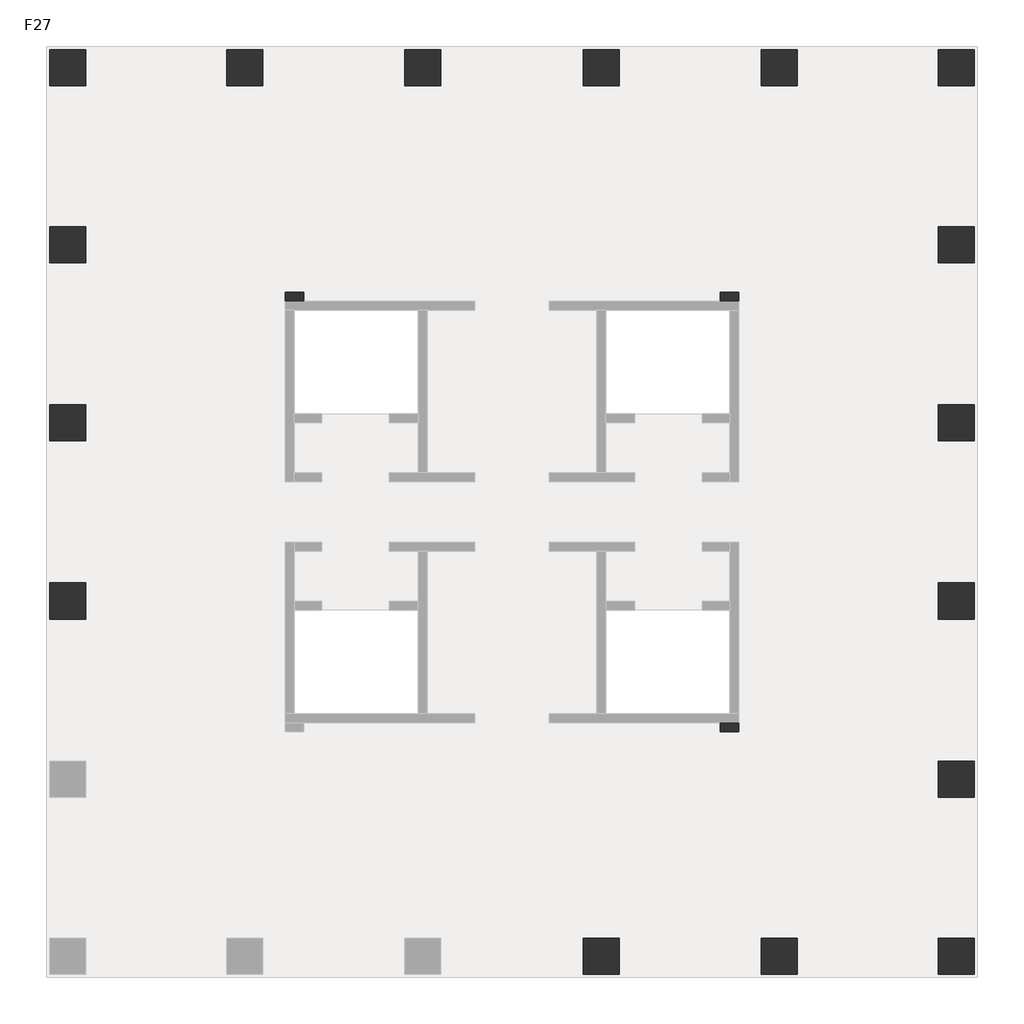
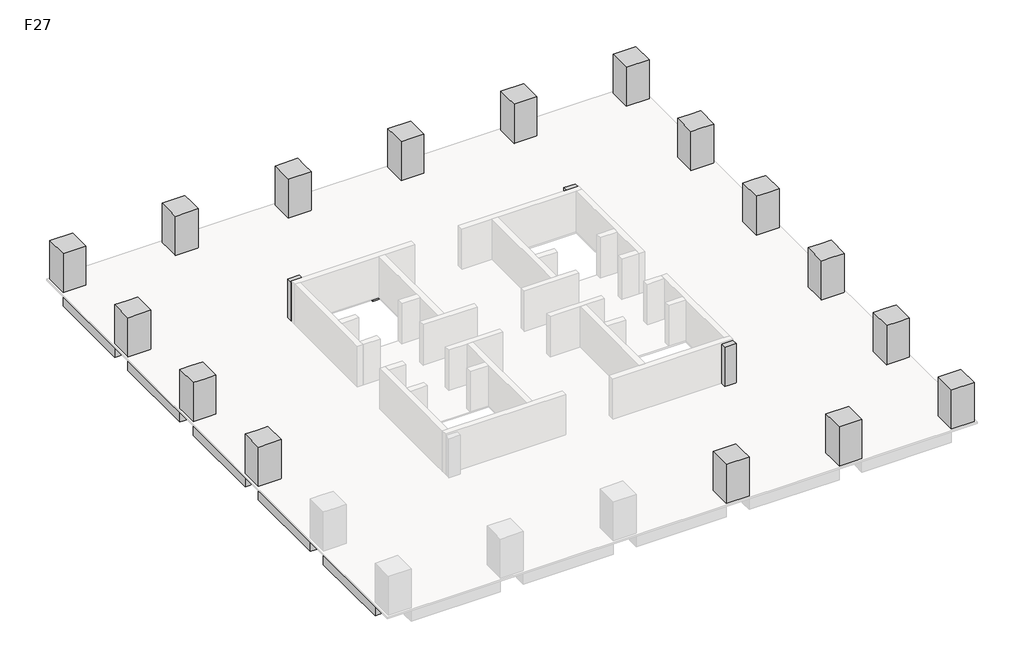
# One storey, part 2 of 2: 19 columns, 17 beams.
"""IFC4 building model written with IfcOpenShell, lengths in millimetres."""

from ifc_helpers import new_model, si_unit, frame, origin, place, context, project, spatial, polyline, outline, extrude, faceted_brep, element, save

model = new_model("IFC4")

# Units and contexts
model_context = context("Model", 3, world=origin())
ifc_project = project(units=[si_unit("LENGTHUNIT", "METRE", prefix="MILLI")], contexts=[model_context])

# Site, building, storey
site = spatial("IfcSite", under=ifc_project)
building = spatial("IfcBuilding", under=site)
storey = spatial("IfcBuildingStorey", under=building, Name="F27", Elevation=99000.0)

# Beams
placement = place(None, origin())
element("IfcBeam", 1, ObjectType="混凝土 - 矩形梁 : KL(5)-800x1000", at=placement, inside=storey, context=model_context, shape_type="SweptSolid", body=[
    extrude(outline(polyline([(25327.3257831, 27051.0498658), (25327.3257831, 26251.0498658), (19077.3257831, 26251.0498658), (19077.3257831, 27051.0498658), (25327.3257831, 27051.0498658)])), frame((0.0, 0.0, 98000.0), z_axis=(0.0, 0.0, 1.0), x_axis=(1.0, 0.0, 0.0)), (0.0, 0.0, 1.0), 900.0),
    extrude(outline(polyline([(-12472.6742169, 26251.0498658), (-12472.6742169, 27051.0498658), (-6222.6742169, 27051.0498658), (-6222.6742169, 26251.0498658), (-12472.6742169, 26251.0498658)])), frame((0.0, 0.0, 98000.0), z_axis=(0.0, 0.0, 1.0), x_axis=(1.0, 0.0, 0.0)), (0.0, 0.0, 1.0), 900.0),
    extrude(outline(polyline([(-4622.6742169, 26251.0498658), (-4622.6742169, 27051.0498658), (1677.3257831, 27051.0498658), (1677.3257831, 26251.0498658), (-4622.6742169, 26251.0498658)])), frame((0.0, 0.0, 98000.0), z_axis=(0.0, 0.0, 1.0), x_axis=(1.0, 0.0, 0.0)), (0.0, 0.0, 1.0), 900.0),
    extrude(outline(polyline([(3277.3257831, 26251.0498658), (3277.3257831, 27051.0498658), (9577.3257831, 27051.0498658), (9577.3257831, 26251.0498658), (3277.3257831, 26251.0498658)])), frame((0.0, 0.0, 98000.0), z_axis=(0.0, 0.0, 1.0), x_axis=(1.0, 0.0, 0.0)), (0.0, 0.0, 1.0), 900.0),
    extrude(outline(polyline([(11177.3257831, 26251.0498658), (11177.3257831, 27051.0498658), (17477.3257831, 27051.0498658), (17477.3257831, 26251.0498658), (11177.3257831, 26251.0498658)])), frame((0.0, 0.0, 98000.0), z_axis=(0.0, 0.0, 1.0), x_axis=(1.0, 0.0, 0.0)), (0.0, 0.0, 1.0), 900.0),
])
element("IfcBeam", 2, ObjectType="混凝土 - 矩形梁 : KL(5)-800x1000", at=placement, inside=storey, context=model_context, shape_type="SweptSolid", body=[
    extrude(outline(polyline([(26927.3257831, -12348.9501342), (26127.3257831, -12348.9501342), (26127.3257831, -6098.9501342), (26927.3257831, -6098.9501342), (26927.3257831, -12348.9501342)])), frame((0.0, 0.0, 98000.0), z_axis=(0.0, 0.0, 1.0), x_axis=(1.0, 0.0, 0.0)), (0.0, 0.0, 1.0), 900.0),
    extrude(outline(polyline([(26127.3257831, 25451.0498658), (26927.3257831, 25451.0498658), (26927.3257831, 19201.0498658), (26127.3257831, 19201.0498658), (26127.3257831, 25451.0498658)])), frame((0.0, 0.0, 98000.0), z_axis=(0.0, 0.0, 1.0), x_axis=(1.0, 0.0, 0.0)), (0.0, 0.0, 1.0), 900.0),
    extrude(outline(polyline([(26127.3257831, 17601.0498658), (26927.3257831, 17601.0498658), (26927.3257831, 11301.0498658), (26127.3257831, 11301.0498658), (26127.3257831, 17601.0498658)])), frame((0.0, 0.0, 98000.0), z_axis=(0.0, 0.0, 1.0), x_axis=(1.0, 0.0, 0.0)), (0.0, 0.0, 1.0), 900.0),
    extrude(outline(polyline([(26127.3257831, 9701.0498658), (26927.3257831, 9701.0498658), (26927.3257831, 3401.0498658), (26127.3257831, 3401.0498658), (26127.3257831, 9701.0498658)])), frame((0.0, 0.0, 98000.0), z_axis=(0.0, 0.0, 1.0), x_axis=(1.0, 0.0, 0.0)), (0.0, 0.0, 1.0), 900.0),
    extrude(outline(polyline([(26127.3257831, 1801.0498658), (26927.3257831, 1801.0498658), (26927.3257831, -4498.9501342), (26127.3257831, -4498.9501342), (26127.3257831, 1801.0498658)])), frame((0.0, 0.0, 98000.0), z_axis=(0.0, 0.0, 1.0), x_axis=(1.0, 0.0, 0.0)), (0.0, 0.0, 1.0), 900.0),
])
element("IfcBeam", 3, ObjectType="混凝土 - 矩形梁 : KL(5)-800x1000", at=placement, inside=storey, context=model_context, shape_type="SweptSolid", body=[
    extrude(outline(polyline([(-14072.6742169, 25451.0498658), (-13272.6742169, 25451.0498658), (-13272.6742169, 19201.0498658), (-14072.6742169, 19201.0498658), (-14072.6742169, 25451.0498658)])), frame((0.0, 0.0, 98000.0), z_axis=(0.0, 0.0, 1.0), x_axis=(1.0, 0.0, 0.0)), (0.0, 0.0, 1.0), 900.0),
    extrude(outline(polyline([(-13272.6742169, -12348.9501342), (-14072.6742169, -12348.9501342), (-14072.6742169, -6098.9501342), (-13272.6742169, -6098.9501342), (-13272.6742169, -12348.9501342)])), frame((0.0, 0.0, 98000.0), z_axis=(0.0, 0.0, 1.0), x_axis=(1.0, 0.0, 0.0)), (0.0, 0.0, 1.0), 900.0),
    extrude(outline(polyline([(-14072.6742169, 17601.0498658), (-13272.6742169, 17601.0498658), (-13272.6742169, 11301.0498658), (-14072.6742169, 11301.0498658), (-14072.6742169, 17601.0498658)])), frame((0.0, 0.0, 98000.0), z_axis=(0.0, 0.0, 1.0), x_axis=(1.0, 0.0, 0.0)), (0.0, 0.0, 1.0), 900.0),
    extrude(outline(polyline([(-14072.6742169, 9701.0498658), (-13272.6742169, 9701.0498658), (-13272.6742169, 3401.0498658), (-14072.6742169, 3401.0498658), (-14072.6742169, 9701.0498658)])), frame((0.0, 0.0, 98000.0), z_axis=(0.0, 0.0, 1.0), x_axis=(1.0, 0.0, 0.0)), (0.0, 0.0, 1.0), 900.0),
    extrude(outline(polyline([(-14072.6742169, 1801.0498658), (-13272.6742169, 1801.0498658), (-13272.6742169, -4498.9501342), (-14072.6742169, -4498.9501342), (-14072.6742169, 1801.0498658)])), frame((0.0, 0.0, 98000.0), z_axis=(0.0, 0.0, 1.0), x_axis=(1.0, 0.0, 0.0)), (0.0, 0.0, 1.0), 900.0),
])
element("IfcBeam", 4, ObjectType="混凝土 - 矩形梁 : L1-800x500", at=placement, inside=storey, context=model_context, shape_type="SweptSolid", body=[
    extrude(outline(polyline([(-12472.6742169, 2201.0498658), (-12472.6742169, 3001.0498658), (-3622.6742169, 3001.0498658), (-3622.6742169, 2201.0498658), (-12472.6742169, 2201.0498658)])), frame((0.0, 0.0, 98500.0), z_axis=(0.0, 0.0, 1.0), x_axis=(1.0, 0.0, 0.0)), (0.0, 0.0, 1.0), 400.0),
])
element("IfcBeam", 5, ObjectType="混凝土 - 矩形梁 : L1-800x500", at=placement, inside=storey, context=model_context, shape_type="SweptSolid", body=[
    extrude(outline(polyline([(-12472.6742169, 10101.0498658), (-12472.6742169, 10901.0498658), (-3622.6742169, 10901.0498658), (-3622.6742169, 10101.0498658), (-12472.6742169, 10101.0498658)])), frame((0.0, 0.0, 98500.0), z_axis=(0.0, 0.0, 1.0), x_axis=(1.0, 0.0, 0.0)), (0.0, 0.0, 1.0), 400.0),
])
element("IfcBeam", 6, ObjectType="混凝土 - 矩形梁 : L1-800x500", at=placement, inside=storey, context=model_context, shape_type="Brep", body=[
    faceted_brep([(-12472.6742169, 17789.85471, 98500.0), (-3622.6742169, 15588.3621727, 98500.0), (-3622.6742169, 15588.3621727, 98900.0), (-12472.6742169, 17789.85471, 98900.0), (-3173.6696907, 16301.0498658, 98500.0), (-3622.6742169, 16301.0498658, 98500.0), (-3622.6742169, 15901.0498658, 98500.0), (-12472.6742169, 18614.2350714, 98500.0), (-3746.9473979, 16443.6562607, 98500.0), (-12472.6742169, 18614.2350714, 98900.0), (-3746.9473979, 16443.6562607, 98900.0), (-3173.6696907, 16301.0498658, 98900.0), (-3622.6742169, 16301.0498658, 98900.0)], [[[0, 1, 2, 3]], [[4, 5, 6, 1, 0, 7, 8]], [[4, 8, 7, 9, 10, 11]], [[6, 5, 12, 2, 1]], [[5, 4, 11, 12]], [[7, 0, 3, 9]], [[3, 2, 12, 11, 10, 9]]]),
])
element("IfcBeam", 7, ObjectType="混凝土 - 矩形梁 : L1-800x500", at=placement, inside=storey, context=model_context, shape_type="SweptSolid", body=[
    extrude(outline(polyline([(-3173.6696907, 16301.0498658), (-3746.9473979, 16443.6562607), (-5661.5624638, 25451.0498658), (-4843.6893517, 25451.0498658), (-2898.7618154, 16301.0498658), (-3173.6696907, 16301.0498658)])), frame((0.0, 0.0, 98500.0), z_axis=(0.0, 0.0, 1.0), x_axis=(1.0, 0.0, 0.0)), (0.0, 0.0, 1.0), 400.0),
])
element("IfcBeam", 8, ObjectType="混凝土 - 矩形梁 : L1-800x500", at=placement, inside=storey, context=model_context, shape_type="SweptSolid", body=[
    extrude(outline(polyline([(2077.3257831, 25451.0498658), (2877.3257831, 25451.0498658), (2877.3257831, 15901.0498658), (2077.3257831, 15901.0498658), (2077.3257831, 25451.0498658)])), frame((0.0, 0.0, 98500.0), z_axis=(0.0, 0.0, 1.0), x_axis=(1.0, 0.0, 0.0)), (0.0, 0.0, 1.0), 400.0),
])
element("IfcBeam", 9, ObjectType="混凝土 - 矩形梁 : L1-800x500", at=placement, inside=storey, context=model_context, shape_type="SweptSolid", body=[
    extrude(outline(polyline([(9977.3257831, 25451.0498658), (10777.3257831, 25451.0498658), (10777.3257831, 15901.0498658), (9977.3257831, 15901.0498658), (9977.3257831, 25451.0498658)])), frame((0.0, 0.0, 98500.0), z_axis=(0.0, 0.0, 1.0), x_axis=(1.0, 0.0, 0.0)), (0.0, 0.0, 1.0), 400.0),
])
element("IfcBeam", 10, ObjectType="混凝土 - 矩形梁 : L1-800x500", at=placement, inside=storey, context=model_context, shape_type="SweptSolid", body=[
    extrude(outline(polyline([(2877.3257831, -12348.9501342), (2077.3257831, -12348.9501342), (2077.3257831, -2798.9501342), (2877.3257831, -2798.9501342), (2877.3257831, -12348.9501342)])), frame((0.0, 0.0, 98500.0), z_axis=(0.0, 0.0, 1.0), x_axis=(1.0, 0.0, 0.0)), (0.0, 0.0, 1.0), 400.0),
])
element("IfcBeam", 11, ObjectType="混凝土 - 矩形梁 : L1-800x500", at=placement, inside=storey, context=model_context, shape_type="SweptSolid", body=[
    extrude(outline(polyline([(10777.3257831, -12348.9501342), (9977.3257831, -12348.9501342), (9977.3257831, -2798.9501342), (10777.3257831, -2798.9501342), (10777.3257831, -12348.9501342)])), frame((0.0, 0.0, 98500.0), z_axis=(0.0, 0.0, 1.0), x_axis=(1.0, 0.0, 0.0)), (0.0, 0.0, 1.0), 400.0),
])
element("IfcBeam", 12, ObjectType="混凝土 - 矩形梁 : L1-800x500", at=placement, inside=storey, context=model_context, shape_type="Brep", body=[
    faceted_brep([(25327.3257831, -4687.7549784, 98500.0), (16477.3257831, -2486.2624411, 98500.0), (16477.3257831, -2486.2624411, 98900.0), (25327.3257831, -4687.7549784, 98900.0), (16028.3212569, -3198.9501342, 98500.0), (16477.3257831, -3198.9501342, 98500.0), (16477.3257831, -2798.9501342, 98500.0), (25327.3257831, -5512.1353397, 98500.0), (16601.5989641, -3341.556529, 98500.0), (25327.3257831, -5512.1353397, 98900.0), (16601.5989641, -3341.556529, 98900.0), (16028.3212569, -3198.9501342, 98900.0), (16477.3257831, -3198.9501342, 98900.0)], [[[0, 1, 2, 3]], [[4, 5, 6, 1, 0, 7, 8]], [[4, 8, 7, 9, 10, 11]], [[6, 5, 12, 2, 1]], [[5, 4, 11, 12]], [[7, 0, 3, 9]], [[3, 2, 12, 11, 10, 9]]]),
])
element("IfcBeam", 13, ObjectType="混凝土 - 矩形梁 : L1-800x500", at=placement, inside=storey, context=model_context, shape_type="SweptSolid", body=[
    extrude(outline(polyline([(16028.3212569, -3198.9501342), (16601.5989641, -3341.556529), (18516.21403, -12348.9501342), (17698.3409179, -12348.9501342), (15753.4133817, -3198.9501342), (16028.3212569, -3198.9501342)])), frame((0.0, 0.0, 98500.0), z_axis=(0.0, 0.0, 1.0), x_axis=(1.0, 0.0, 0.0)), (0.0, 0.0, 1.0), 400.0),
])
element("IfcBeam", 14, ObjectType="混凝土 - 矩形梁 : L1-800x500", at=placement, inside=storey, context=model_context, shape_type="SweptSolid", body=[
    extrude(outline(polyline([(25327.3257831, 3001.0498658), (25327.3257831, 2201.0498658), (16477.3257831, 2201.0498658), (16477.3257831, 3001.0498658), (25327.3257831, 3001.0498658)])), frame((0.0, 0.0, 98500.0), z_axis=(0.0, 0.0, 1.0), x_axis=(1.0, 0.0, 0.0)), (0.0, 0.0, 1.0), 400.0),
])
element("IfcBeam", 15, ObjectType="混凝土 - 矩形梁 : L1-800x500", at=placement, inside=storey, context=model_context, shape_type="SweptSolid", body=[
    extrude(outline(polyline([(25327.3257831, 10901.0498658), (25327.3257831, 10101.0498658), (16477.3257831, 10101.0498658), (16477.3257831, 10901.0498658), (25327.3257831, 10901.0498658)])), frame((0.0, 0.0, 98500.0), z_axis=(0.0, 0.0, 1.0), x_axis=(1.0, 0.0, 0.0)), (0.0, 0.0, 1.0), 400.0),
])
element("IfcBeam", 16, ObjectType="混凝土 - 矩形梁 : L1-800x500", at=placement, inside=storey, context=model_context, shape_type="Brep", body=[
    faceted_brep([(25327.3257831, 18610.6867312, 98500.0), (16590.8993897, 16393.3196262, 98500.0), (16227.3565337, 16301.0498658, 98500.0), (16227.3565337, 16301.0498658, 98900.0), (16590.8993897, 16393.3196262, 98900.0), (25327.3257831, 18610.6867312, 98900.0), (16477.3257831, 16301.0498658, 98500.0), (25327.3257831, 17785.3216299, 98500.0), (16477.3257831, 15539.1287365, 98500.0), (16477.3257831, 15901.0498658, 98500.0), (25327.3257831, 17785.3216299, 98900.0), (16477.3257831, 15539.1287365, 98900.0), (16477.3257831, 16301.0498658, 98900.0)], [[[0, 1, 2, 3, 4, 5]], [[6, 2, 1, 0, 7, 8, 9]], [[8, 7, 10, 11]], [[9, 8, 11, 12, 6]], [[2, 6, 12, 3]], [[7, 0, 5, 10]], [[5, 4, 3, 12, 11, 10]]]),
])
element("IfcBeam", 17, ObjectType="混凝土 - 矩形梁 : L1-800x500", at=placement, inside=storey, context=model_context, shape_type="SweptSolid", body=[
    extrude(outline(polyline([(16590.8993897, 16393.3196262), (16227.3565337, 16301.0498658), (15753.4133817, 16301.0498658), (17698.3409179, 25451.0498658), (18516.21403, 25451.0498658), (16590.8993897, 16393.3196262)])), frame((0.0, 0.0, 98500.0), z_axis=(0.0, 0.0, 1.0), x_axis=(1.0, 0.0, 0.0)), (0.0, 0.0, 1.0), 400.0),
])

# Columns
element("IfcColumn", 18, ObjectType="混凝土 - 矩形 - 柱 : Z1-1600x1600", at=placement, inside=storey, context=model_context, shape_type="SweptSolid", body=[
    extrude(outline(polyline([(-12472.6742169, 27051.0498658), (-12472.6742169, 25451.0498658), (-14072.6742169, 25451.0498658), (-14072.6742169, 27051.0498658), (-12472.6742169, 27051.0498658)])), frame((0.0, 0.0, 99000.0), z_axis=(0.0, 0.0, 1.0), x_axis=(1.0, 0.0, 0.0)), (0.0, 0.0, 1.0), 2900.0),
])
element("IfcColumn", 19, ObjectType="混凝土 - 矩形 - 柱 : Z1-1600x1600", at=placement, inside=storey, context=model_context, shape_type="Brep", body=[
    faceted_brep([(-4622.6742169, 27051.0498658, 99000.0), (-4622.6742169, 25451.0498658, 99000.0), (-6222.6742169, 25451.0498658, 99000.0), (-6222.6742169, 27051.0498658, 99000.0), (-4622.6742169, 27051.0498658, 101000.0), (-4622.6742169, 27051.0498658, 101900.0), (-4622.6742169, 26251.0498658, 101900.0), (-4622.6742169, 25451.0498658, 101900.0), (-6222.6742169, 25451.0498658, 101900.0), (-6222.6742169, 26251.0498658, 101900.0), (-6222.6742169, 27051.0498658, 101900.0), (-6222.6742169, 27051.0498658, 101000.0)], [[[0, 1, 2, 3]], [[1, 0, 4, 5, 6, 7]], [[2, 1, 7, 8]], [[3, 2, 8, 9, 10, 11]], [[0, 3, 11, 10, 5, 4]], [[7, 6, 5, 10, 9, 8]]]),
])
element("IfcColumn", 20, ObjectType="混凝土 - 矩形 - 柱 : Z1-1600x1600", at=placement, inside=storey, context=model_context, shape_type="Brep", body=[
    faceted_brep([(-12472.6742169, 19201.0498658, 99000.0), (-12472.6742169, 17601.0498658, 99000.0), (-14072.6742169, 17601.0498658, 99000.0), (-14072.6742169, 19201.0498658, 99000.0), (-12472.6742169, 19201.0498658, 101900.0), (-12472.6742169, 17601.0498658, 101900.0), (-13272.6742169, 17601.0498658, 101900.0), (-14072.6742169, 17601.0498658, 101900.0), (-14072.6742169, 17601.0498658, 101000.0), (-14072.6742169, 19201.0498658, 101900.0), (-14072.6742169, 19201.0498658, 101000.0), (-13272.6742169, 19201.0498658, 101900.0)], [[[0, 1, 2, 3]], [[1, 0, 4, 5]], [[2, 1, 5, 6, 7, 8]], [[3, 2, 8, 7, 9, 10]], [[0, 3, 10, 9, 11, 4]], [[5, 4, 11, 9, 7, 6]]]),
])
element("IfcColumn", 21, ObjectType="混凝土 - 矩形 - 柱 : Z1-1600x1600", at=placement, inside=storey, context=model_context, shape_type="Brep", body=[
    faceted_brep([(-12472.6742169, 11301.0498658, 99000.0), (-12472.6742169, 9701.0498658, 99000.0), (-14072.6742169, 9701.0498658, 99000.0), (-14072.6742169, 11301.0498658, 99000.0), (-12472.6742169, 11301.0498658, 101900.0), (-12472.6742169, 9701.0498658, 101900.0), (-13272.6742169, 9701.0498658, 101900.0), (-14072.6742169, 9701.0498658, 101900.0), (-14072.6742169, 9701.0498658, 101000.0), (-14072.6742169, 11301.0498658, 101900.0), (-14072.6742169, 11301.0498658, 101000.0), (-13272.6742169, 11301.0498658, 101900.0)], [[[0, 1, 2, 3]], [[1, 0, 4, 5]], [[2, 1, 5, 6, 7, 8]], [[3, 2, 8, 7, 9, 10]], [[0, 3, 10, 9, 11, 4]], [[5, 4, 11, 9, 7, 6]]]),
])
element("IfcColumn", 22, ObjectType="混凝土 - 矩形 - 柱 : Z1-1600x1600", at=placement, inside=storey, context=model_context, shape_type="Brep", body=[
    faceted_brep([(-12472.6742169, 3401.0498658, 99000.0), (-12472.6742169, 1801.0498658, 99000.0), (-14072.6742169, 1801.0498658, 99000.0), (-14072.6742169, 3401.0498658, 99000.0), (-12472.6742169, 3401.0498658, 101900.0), (-12472.6742169, 1801.0498658, 101900.0), (-13272.6742169, 1801.0498658, 101900.0), (-14072.6742169, 1801.0498658, 101900.0), (-14072.6742169, 1801.0498658, 101000.0), (-14072.6742169, 3401.0498658, 101900.0), (-14072.6742169, 3401.0498658, 101000.0), (-13272.6742169, 3401.0498658, 101900.0)], [[[0, 1, 2, 3]], [[1, 0, 4, 5]], [[2, 1, 5, 6, 7, 8]], [[3, 2, 8, 7, 9, 10]], [[0, 3, 10, 9, 11, 4]], [[5, 4, 11, 9, 7, 6]]]),
])
element("IfcColumn", 23, ObjectType="混凝土 - 矩形 - 柱 : Z1-1600x1600", at=placement, inside=storey, context=model_context, shape_type="SweptSolid", body=[
    extrude(outline(polyline([(25327.3257831, 27051.0498658), (26927.3257831, 27051.0498658), (26927.3257831, 25451.0498658), (25327.3257831, 25451.0498658), (25327.3257831, 27051.0498658)])), frame((0.0, 0.0, 99000.0), z_axis=(0.0, 0.0, 1.0), x_axis=(1.0, 0.0, 0.0)), (0.0, 0.0, 1.0), 2900.0),
])
element("IfcColumn", 24, ObjectType="混凝土 - 矩形 - 柱 : Z1-1600x1600", at=placement, inside=storey, context=model_context, shape_type="Brep", body=[
    faceted_brep([(25327.3257831, 19201.0498658, 99000.0), (26927.3257831, 19201.0498658, 99000.0), (26927.3257831, 17601.0498658, 99000.0), (25327.3257831, 17601.0498658, 99000.0), (25327.3257831, 17601.0498658, 101900.0), (25327.3257831, 19201.0498658, 101900.0), (26927.3257831, 17601.0498658, 101000.0), (26927.3257831, 17601.0498658, 101900.0), (26127.3257831, 17601.0498658, 101900.0), (26927.3257831, 19201.0498658, 101000.0), (26927.3257831, 19201.0498658, 101900.0), (26127.3257831, 19201.0498658, 101900.0)], [[[0, 1, 2, 3]], [[0, 3, 4, 5]], [[3, 2, 6, 7, 8, 4]], [[2, 1, 9, 10, 7, 6]], [[1, 0, 5, 11, 10, 9]], [[5, 4, 8, 7, 10, 11]]]),
])
element("IfcColumn", 25, ObjectType="混凝土 - 矩形 - 柱 : Z1-1600x1600", at=placement, inside=storey, context=model_context, shape_type="Brep", body=[
    faceted_brep([(25327.3257831, 11301.0498658, 99000.0), (26927.3257831, 11301.0498658, 99000.0), (26927.3257831, 9701.0498658, 99000.0), (25327.3257831, 9701.0498658, 99000.0), (25327.3257831, 9701.0498658, 101900.0), (25327.3257831, 11301.0498658, 101900.0), (26927.3257831, 9701.0498658, 101000.0), (26927.3257831, 9701.0498658, 101900.0), (26127.3257831, 9701.0498658, 101900.0), (26927.3257831, 11301.0498658, 101000.0), (26927.3257831, 11301.0498658, 101900.0), (26127.3257831, 11301.0498658, 101900.0)], [[[0, 1, 2, 3]], [[0, 3, 4, 5]], [[3, 2, 6, 7, 8, 4]], [[2, 1, 9, 10, 7, 6]], [[1, 0, 5, 11, 10, 9]], [[5, 4, 8, 7, 10, 11]]]),
])
element("IfcColumn", 26, ObjectType="混凝土 - 矩形 - 柱 : Z1-1600x1600", at=placement, inside=storey, context=model_context, shape_type="Brep", body=[
    faceted_brep([(25327.3257831, 3401.0498658, 99000.0), (26927.3257831, 3401.0498658, 99000.0), (26927.3257831, 1801.0498658, 99000.0), (25327.3257831, 1801.0498658, 99000.0), (25327.3257831, 1801.0498658, 101900.0), (25327.3257831, 3401.0498658, 101900.0), (26927.3257831, 1801.0498658, 101000.0), (26927.3257831, 1801.0498658, 101900.0), (26127.3257831, 1801.0498658, 101900.0), (26927.3257831, 3401.0498658, 101000.0), (26927.3257831, 3401.0498658, 101900.0), (26127.3257831, 3401.0498658, 101900.0)], [[[0, 1, 2, 3]], [[0, 3, 4, 5]], [[3, 2, 6, 7, 8, 4]], [[2, 1, 9, 10, 7, 6]], [[1, 0, 5, 11, 10, 9]], [[5, 4, 8, 7, 10, 11]]]),
])
element("IfcColumn", 27, ObjectType="混凝土 - 矩形 - 柱 : Z1-1600x1600", at=placement, inside=storey, context=model_context, shape_type="Brep", body=[
    faceted_brep([(25327.3257831, -4498.9501342, 99000.0), (26927.3257831, -4498.9501342, 99000.0), (26927.3257831, -6098.9501342, 99000.0), (25327.3257831, -6098.9501342, 99000.0), (25327.3257831, -6098.9501342, 101900.0), (25327.3257831, -4498.9501342, 101900.0), (26927.3257831, -6098.9501342, 101000.0), (26927.3257831, -6098.9501342, 101900.0), (26127.3257831, -6098.9501342, 101900.0), (26927.3257831, -4498.9501342, 101000.0), (26927.3257831, -4498.9501342, 101900.0), (26127.3257831, -4498.9501342, 101900.0)], [[[0, 1, 2, 3]], [[0, 3, 4, 5]], [[3, 2, 6, 7, 8, 4]], [[2, 1, 9, 10, 7, 6]], [[1, 0, 5, 11, 10, 9]], [[5, 4, 8, 7, 10, 11]]]),
])
element("IfcColumn", 28, ObjectType="混凝土 - 矩形 - 柱 : Z1-1600x1600", at=placement, inside=storey, context=model_context, shape_type="SweptSolid", body=[
    extrude(outline(polyline([(25327.3257831, -12348.9501342), (26927.3257831, -12348.9501342), (26927.3257831, -13948.9501342), (25327.3257831, -13948.9501342), (25327.3257831, -12348.9501342)])), frame((0.0, 0.0, 99000.0), z_axis=(0.0, 0.0, 1.0), x_axis=(1.0, 0.0, 0.0)), (0.0, 0.0, 1.0), 2900.0),
])
element("IfcColumn", 29, ObjectType="混凝土 - 矩形 - 柱 : Z1-1600x1600", at=placement, inside=storey, context=model_context, shape_type="Brep", body=[
    faceted_brep([(3277.3257831, 27051.0498658, 99000.0), (3277.3257831, 25451.0498658, 99000.0), (1677.3257831, 25451.0498658, 99000.0), (1677.3257831, 27051.0498658, 99000.0), (3277.3257831, 27051.0498658, 101000.0), (3277.3257831, 27051.0498658, 101900.0), (3277.3257831, 26251.0498658, 101900.0), (3277.3257831, 25451.0498658, 101900.0), (1677.3257831, 25451.0498658, 101900.0), (1677.3257831, 26251.0498658, 101900.0), (1677.3257831, 27051.0498658, 101900.0), (1677.3257831, 27051.0498658, 101000.0)], [[[0, 1, 2, 3]], [[1, 0, 4, 5, 6, 7]], [[2, 1, 7, 8]], [[3, 2, 8, 9, 10, 11]], [[0, 3, 11, 10, 5, 4]], [[7, 6, 5, 10, 9, 8]]]),
])
element("IfcColumn", 30, ObjectType="混凝土 - 矩形 - 柱 : Z1-1600x1600", at=placement, inside=storey, context=model_context, shape_type="Brep", body=[
    faceted_brep([(11177.3257831, 27051.0498658, 99000.0), (11177.3257831, 25451.0498658, 99000.0), (9577.3257831, 25451.0498658, 99000.0), (9577.3257831, 27051.0498658, 99000.0), (11177.3257831, 27051.0498658, 101000.0), (11177.3257831, 27051.0498658, 101900.0), (11177.3257831, 26251.0498658, 101900.0), (11177.3257831, 25451.0498658, 101900.0), (9577.3257831, 25451.0498658, 101900.0), (9577.3257831, 26251.0498658, 101900.0), (9577.3257831, 27051.0498658, 101900.0), (9577.3257831, 27051.0498658, 101000.0)], [[[0, 1, 2, 3]], [[1, 0, 4, 5, 6, 7]], [[2, 1, 7, 8]], [[3, 2, 8, 9, 10, 11]], [[0, 3, 11, 10, 5, 4]], [[7, 6, 5, 10, 9, 8]]]),
])
element("IfcColumn", 31, ObjectType="混凝土 - 矩形 - 柱 : Z1-1600x1600", at=placement, inside=storey, context=model_context, shape_type="Brep", body=[
    faceted_brep([(19077.3257831, 27051.0498658, 99000.0), (19077.3257831, 25451.0498658, 99000.0), (17477.3257831, 25451.0498658, 99000.0), (17477.3257831, 27051.0498658, 99000.0), (19077.3257831, 27051.0498658, 101000.0), (19077.3257831, 27051.0498658, 101900.0), (19077.3257831, 26251.0498658, 101900.0), (19077.3257831, 25451.0498658, 101900.0), (17477.3257831, 25451.0498658, 101900.0), (17477.3257831, 26251.0498658, 101900.0), (17477.3257831, 27051.0498658, 101900.0), (17477.3257831, 27051.0498658, 101000.0)], [[[0, 1, 2, 3]], [[1, 0, 4, 5, 6, 7]], [[2, 1, 7, 8]], [[3, 2, 8, 9, 10, 11]], [[0, 3, 11, 10, 5, 4]], [[7, 6, 5, 10, 9, 8]]]),
])
element("IfcColumn", 32, ObjectType="混凝土 - 矩形 - 柱 : Z1-1600x1600", at=placement, inside=storey, context=model_context, shape_type="Brep", body=[
    faceted_brep([(11177.3257831, -12348.9501342, 99000.0), (11177.3257831, -13948.9501342, 99000.0), (9577.3257831, -13948.9501342, 99000.0), (9577.3257831, -12348.9501342, 99000.0), (11177.3257831, -12348.9501342, 101900.0), (11177.3257831, -13148.9501342, 101900.0), (11177.3257831, -13948.9501342, 101900.0), (11177.3257831, -13948.9501342, 101000.0), (9577.3257831, -13948.9501342, 101900.0), (9577.3257831, -13948.9501342, 101000.0), (9577.3257831, -13148.9501342, 101900.0), (9577.3257831, -12348.9501342, 101900.0)], [[[0, 1, 2, 3]], [[1, 0, 4, 5, 6, 7]], [[2, 1, 7, 6, 8, 9]], [[3, 2, 9, 8, 10, 11]], [[0, 3, 11, 4]], [[6, 5, 4, 11, 10, 8]]]),
])
element("IfcColumn", 33, ObjectType="混凝土 - 矩形 - 柱 : Z1-1600x1600", at=placement, inside=storey, context=model_context, shape_type="Brep", body=[
    faceted_brep([(19077.3257831, -12348.9501342, 99000.0), (19077.3257831, -13948.9501342, 99000.0), (17477.3257831, -13948.9501342, 99000.0), (17477.3257831, -12348.9501342, 99000.0), (19077.3257831, -12348.9501342, 101900.0), (19077.3257831, -13148.9501342, 101900.0), (19077.3257831, -13948.9501342, 101900.0), (19077.3257831, -13948.9501342, 101000.0), (17477.3257831, -13948.9501342, 101900.0), (17477.3257831, -13948.9501342, 101000.0), (17477.3257831, -13148.9501342, 101900.0), (17477.3257831, -12348.9501342, 101900.0)], [[[0, 1, 2, 3]], [[1, 0, 4, 5, 6, 7]], [[2, 1, 7, 6, 8, 9]], [[3, 2, 9, 8, 10, 11]], [[0, 3, 11, 4]], [[6, 5, 4, 11, 10, 8]]]),
])
element("IfcColumn", 34, ObjectType="混凝土 - 矩形 - 柱 : Z2-800x800", at=placement, inside=storey, context=model_context, shape_type="SweptSolid", body=[
    extrude(outline(polyline([(-3622.6742169, 16301.0498658), (-2822.6742169, 16301.0498658), (-2822.6742169, 15901.0498658), (-3622.6742169, 15901.0498658), (-3622.6742169, 16301.0498658)])), frame((0.0, 0.0, 99000.0), z_axis=(0.0, 0.0, 1.0), x_axis=(1.0, 0.0, 0.0)), (0.0, 0.0, 1.0), 2900.0),
])
element("IfcColumn", 35, ObjectType="混凝土 - 矩形 - 柱 : Z2-800x800", at=placement, inside=storey, context=model_context, shape_type="SweptSolid", body=[
    extrude(outline(polyline([(16477.3257831, -3198.9501342), (15677.3257831, -3198.9501342), (15677.3257831, -2798.9501342), (16477.3257831, -2798.9501342), (16477.3257831, -3198.9501342)])), frame((0.0, 0.0, 99000.0), z_axis=(0.0, 0.0, 1.0), x_axis=(1.0, 0.0, 0.0)), (0.0, 0.0, 1.0), 2900.0),
])
element("IfcColumn", 36, ObjectType="混凝土 - 矩形 - 柱 : Z2-800x800", at=placement, inside=storey, context=model_context, shape_type="SweptSolid", body=[
    extrude(outline(polyline([(15677.3257831, 16301.0498658), (16477.3257831, 16301.0498658), (16477.3257831, 15901.0498658), (15677.3257831, 15901.0498658), (15677.3257831, 16301.0498658)])), frame((0.0, 0.0, 99000.0), z_axis=(0.0, 0.0, 1.0), x_axis=(1.0, 0.0, 0.0)), (0.0, 0.0, 1.0), 2900.0),
])

save(model, "model.ifc")
